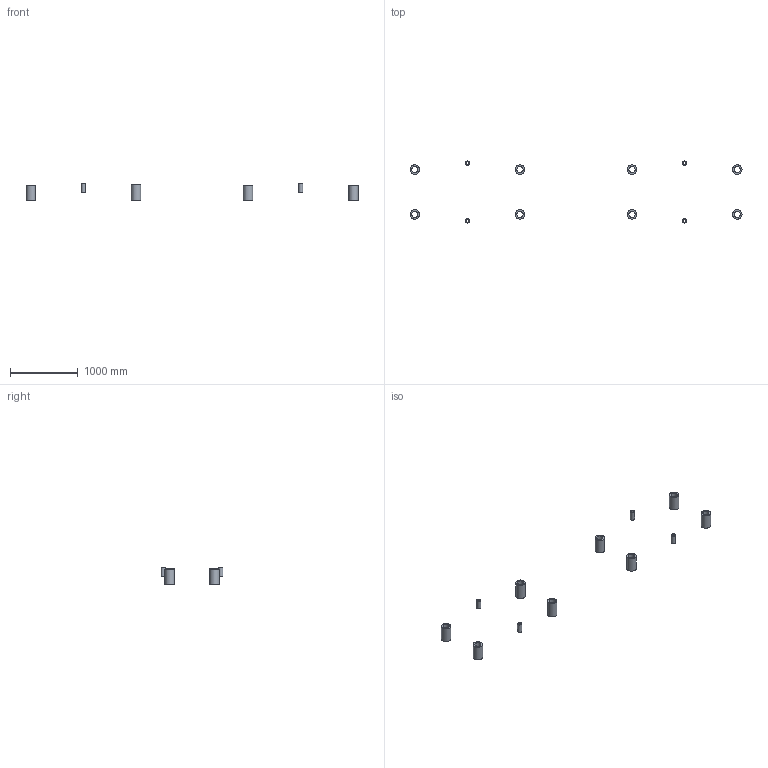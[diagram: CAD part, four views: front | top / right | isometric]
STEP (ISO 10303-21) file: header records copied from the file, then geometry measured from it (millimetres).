
FILE_DESCRIPTION(('Open CASCADE Model'),'2;1');
FILE_NAME('Open CASCADE Shape Model','2026-10-22T18:03:13',('Author'),( 'Open CASCADE'),'Open CASCADE STEP processor 7.8','Open CASCADE 7.8' ,'Unknown');
FILE_SCHEMA(('AUTOMOTIVE_DESIGN { 1 0 10303 214 1 1 1 1 }'));
Length unit declared in the file: millimetre
Products named in the file (13): Open CASCADE STEP translator 7.8 2; Open CASCADE STEP translator 7.8 2.1; Open CASCADE STEP translator 7.8 2.2; Open CASCADE STEP translator 7.8 2.3; Open CASCADE STEP translator 7.8 2.4; Open CASCADE STEP translator 7.8 2.5; Open CASCADE STEP translator 7.8 2.6; Open CASCADE STEP translator 7.8 2.7; Open CASCADE STEP translator 7.8 2.8; Open CASCADE STEP translator 7.8 2.9; Open CASCADE STEP translator 7.8 2.10; Open CASCADE STEP translator 7.8 2.11; Open CASCADE STEP translator 7.8 2.12
Assembly tree (12 placements, depth 2):
  Open CASCADE STEP translator 7.8 2
    Open CASCADE STEP translator 7.8 2.1
    Open CASCADE STEP translator 7.8 2.2
    Open CASCADE STEP translator 7.8 2.3
    Open CASCADE STEP translator 7.8 2.4
    Open CASCADE STEP translator 7.8 2.5
    Open CASCADE STEP translator 7.8 2.6
    Open CASCADE STEP translator 7.8 2.7
    Open CASCADE STEP translator 7.8 2.8
    Open CASCADE STEP translator 7.8 2.9
    Open CASCADE STEP translator 7.8 2.10
    Open CASCADE STEP translator 7.8 2.11
    Open CASCADE STEP translator 7.8 2.12
Bounding box: 4889.7 x 913 x 262 mm (x, y, z)
Volume: 17111988.1 mm3; surface area: 1652657.9 mm2
Topology: 12 solids, 12 shells, 48 faces, 72 edges, 48 vertices
Faces by surface type: cylinder 24, plane 24
Full cylindrical faces by diameter (mm): 38 x4, 63 x4, 91.281 x8, 139.7 x8
Entity records: 2272 total; most frequent: DIRECTION 386, CARTESIAN_POINT 325, ORIENTED_EDGE 144, PCURVE 144, DEFINITIONAL_REPRESENTATION 144, LINE 120, VECTOR 120, AXIS2_PLACEMENT_3D 109
